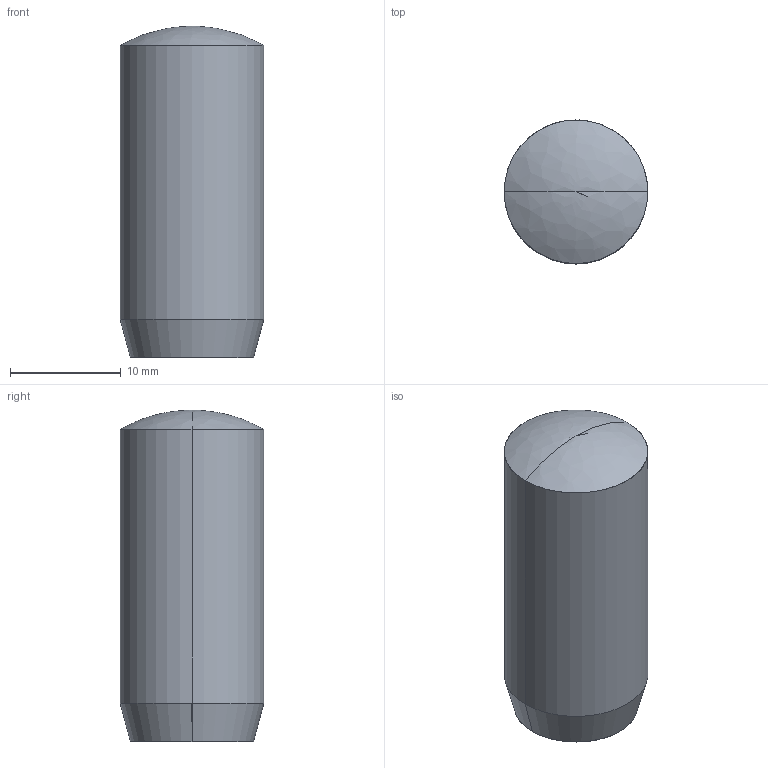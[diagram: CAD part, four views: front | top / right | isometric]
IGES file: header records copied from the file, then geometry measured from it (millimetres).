
Global section: file name: E:\UnigraphicsGraphicData\MISUMI_PRESS-PARTS\IGES\3d_ms13-30_00428_r00.igs; native system: NX V5.0; preprocessor: UGS NX IGES V5.0; author: MISUMI; date: 20110105.161512; units: millimetre
Bounding box: 13 x 13 x 30 mm (x, y, z)
Surface area: 1388.2 mm2 (no closed solid volume)
Topology: 0 solids, 0 shells, 7 faces, 32 edges, 30 vertices
Faces by surface type: bspline 7
